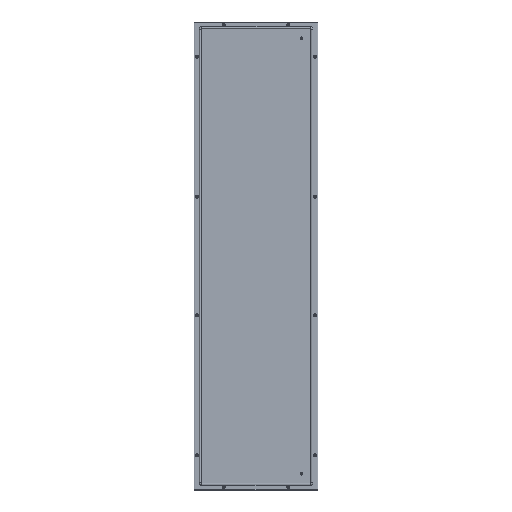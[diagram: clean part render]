
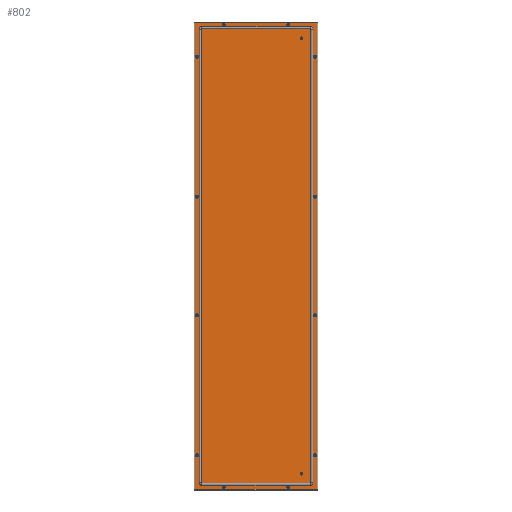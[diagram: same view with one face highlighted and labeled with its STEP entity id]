
A CAD part, left-side view. The second image highlights one B-rep face of the part: STEP entity #802.
In plain terms, the highlighted planar face has unit normal (-1, 0, 0).
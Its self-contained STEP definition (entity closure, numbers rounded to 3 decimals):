
#802=ADVANCED_FACE('',(#1181,#1183,#1185,#1187,#1189,#1191,#1193,#1195,#1197,#1199,
#1201,#1203,#1205,#1207,#1209),#1211,.F.);
#1181=FACE_BOUND('',#1182,.T.);
#1182=EDGE_LOOP('',(#3533,#3534,#3535,#3536));
#1183=FACE_BOUND('',#1184,.T.);
#1184=EDGE_LOOP('',(#3537));
#1185=FACE_BOUND('',#1186,.T.);
#1186=EDGE_LOOP('',(#3538));
#1187=FACE_BOUND('',#1188,.T.);
#1188=EDGE_LOOP('',(#3539));
#1189=FACE_BOUND('',#1190,.T.);
#1190=EDGE_LOOP('',(#3540));
#1191=FACE_BOUND('',#1192,.T.);
#1192=EDGE_LOOP('',(#3541));
#1193=FACE_BOUND('',#1194,.T.);
#1194=EDGE_LOOP('',(#3542));
#1195=FACE_BOUND('',#1196,.T.);
#1196=EDGE_LOOP('',(#3543));
#1197=FACE_BOUND('',#1198,.T.);
#1198=EDGE_LOOP('',(#3544));
#1199=FACE_BOUND('',#1200,.T.);
#1200=EDGE_LOOP('',(#3545));
#1201=FACE_BOUND('',#1202,.T.);
#1202=EDGE_LOOP('',(#3546));
#1203=FACE_BOUND('',#1204,.T.);
#1204=EDGE_LOOP('',(#3547));
#1205=FACE_BOUND('',#1206,.T.);
#1206=EDGE_LOOP('',(#3548));
#1207=FACE_BOUND('',#1208,.T.);
#1208=EDGE_LOOP('',(#3549));
#1209=FACE_BOUND('',#1210,.T.);
#1210=EDGE_LOOP('',(#3550));
#1211=PLANE('',#1212);
#1212=AXIS2_PLACEMENT_3D('',#1213,#1214,#1215);
#1213=CARTESIAN_POINT('',(0.,0.,0.));
#1214=DIRECTION('',(1.,0.,0.));
#1215=DIRECTION('',(0.,1.,0.));
#3533=ORIENTED_EDGE('',*,*,#4061,.T.);
#3534=ORIENTED_EDGE('',*,*,#4062,.T.);
#3535=ORIENTED_EDGE('',*,*,#4063,.T.);
#3536=ORIENTED_EDGE('',*,*,#4064,.T.);
#3537=ORIENTED_EDGE('',*,*,#4065,.T.);
#3538=ORIENTED_EDGE('',*,*,#4066,.T.);
#3539=ORIENTED_EDGE('',*,*,#4067,.F.);
#3540=ORIENTED_EDGE('',*,*,#4068,.F.);
#3541=ORIENTED_EDGE('',*,*,#4069,.F.);
#3542=ORIENTED_EDGE('',*,*,#4070,.F.);
#3543=ORIENTED_EDGE('',*,*,#4071,.F.);
#3544=ORIENTED_EDGE('',*,*,#4072,.F.);
#3545=ORIENTED_EDGE('',*,*,#4073,.F.);
#3546=ORIENTED_EDGE('',*,*,#4074,.F.);
#3547=ORIENTED_EDGE('',*,*,#4075,.F.);
#3548=ORIENTED_EDGE('',*,*,#4076,.F.);
#3549=ORIENTED_EDGE('',*,*,#4077,.F.);
#3550=ORIENTED_EDGE('',*,*,#4078,.F.);
#4061=EDGE_CURVE('',#4385,#4386,#4387,.T.);
#4062=EDGE_CURVE('',#4386,#4388,#4389,.T.);
#4063=EDGE_CURVE('',#4388,#4390,#4391,.T.);
#4064=EDGE_CURVE('',#4390,#4385,#4392,.T.);
#4065=EDGE_CURVE('',#4393,#4393,#4394,.F.);
#4066=EDGE_CURVE('',#4395,#4395,#4396,.F.);
#4067=EDGE_CURVE('',#4397,#4397,#4398,.T.);
#4068=EDGE_CURVE('',#4399,#4399,#4400,.F.);
#4069=EDGE_CURVE('',#4401,#4401,#4402,.F.);
#4070=EDGE_CURVE('',#4403,#4403,#4404,.F.);
#4071=EDGE_CURVE('',#4405,#4405,#4406,.F.);
#4072=EDGE_CURVE('',#4407,#4407,#4408,.F.);
#4073=EDGE_CURVE('',#4409,#4409,#4410,.F.);
#4074=EDGE_CURVE('',#4411,#4411,#4412,.F.);
#4075=EDGE_CURVE('',#4413,#4413,#4414,.F.);
#4076=EDGE_CURVE('',#4415,#4415,#4416,.F.);
#4077=EDGE_CURVE('',#4417,#4417,#4418,.F.);
#4078=EDGE_CURVE('',#4419,#4419,#4420,.F.);
#4385=VERTEX_POINT('',#5033);
#4386=VERTEX_POINT('',#5034);
#4387=LINE('',#5035,#5036);
#4388=VERTEX_POINT('',#5038);
#4389=LINE('',#5039,#5040);
#4390=VERTEX_POINT('',#5042);
#4391=LINE('',#5043,#5044);
#4392=LINE('',#5046,#5047);
#4393=VERTEX_POINT('',#5049);
#4394=CIRCLE('',#5050,5.75);
#4395=VERTEX_POINT('',#5054);
#4396=CIRCLE('',#5055,5.75);
#4397=VERTEX_POINT('',#5059);
#4398=CIRCLE('',#5060,6.954);
#4399=VERTEX_POINT('',#5064);
#4400=CIRCLE('',#5065,6.954);
#4401=VERTEX_POINT('',#5069);
#4402=CIRCLE('',#5070,6.954);
#4403=VERTEX_POINT('',#5074);
#4404=CIRCLE('',#5075,6.954);
#4405=VERTEX_POINT('',#5079);
#4406=CIRCLE('',#5080,6.954);
#4407=VERTEX_POINT('',#5084);
#4408=CIRCLE('',#5085,6.954);
#4409=VERTEX_POINT('',#5089);
#4410=CIRCLE('',#5090,6.954);
#4411=VERTEX_POINT('',#5094);
#4412=CIRCLE('',#5095,6.954);
#4413=VERTEX_POINT('',#5099);
#4414=CIRCLE('',#5100,6.954);
#4415=VERTEX_POINT('',#5104);
#4416=CIRCLE('',#5105,6.954);
#4417=VERTEX_POINT('',#5109);
#4418=CIRCLE('',#5110,6.954);
#4419=VERTEX_POINT('',#5114);
#4420=CIRCLE('',#5115,6.954);
#5033=CARTESIAN_POINT('',(0.,-283.7,-1082.7));
#5034=CARTESIAN_POINT('',(0.,-283.7,1082.7));
#5035=CARTESIAN_POINT('',(0.,-283.7,-1082.7));
#5036=VECTOR('',#5037,1.);
#5037=DIRECTION('',(0.,0.,1.));
#5038=CARTESIAN_POINT('',(0.,283.7,1082.7));
#5039=CARTESIAN_POINT('',(0.,-283.7,1082.7));
#5040=VECTOR('',#5041,1.);
#5041=DIRECTION('',(0.,1.,0.));
#5042=CARTESIAN_POINT('',(0.,283.7,-1082.7));
#5043=CARTESIAN_POINT('',(0.,283.7,1082.7));
#5044=VECTOR('',#5045,1.);
#5045=DIRECTION('',(0.,0.,-1.));
#5046=CARTESIAN_POINT('',(0.,283.7,-1082.7));
#5047=VECTOR('',#5048,1.);
#5048=DIRECTION('',(0.,-1.,0.));
#5049=CARTESIAN_POINT('',(0.,-217.25,1010.5));
#5050=AXIS2_PLACEMENT_3D('',#5051,#5052,#5053);
#5051=CARTESIAN_POINT('',(0.,-211.5,1010.5));
#5052=DIRECTION('',(-1.,0.,0.));
#5053=DIRECTION('',(0.,-1.,0.));
#5054=CARTESIAN_POINT('',(0.,-217.25,-1010.5));
#5055=AXIS2_PLACEMENT_3D('',#5056,#5057,#5058);
#5056=CARTESIAN_POINT('',(0.,-211.5,-1010.5));
#5057=DIRECTION('',(-1.,0.,0.));
#5058=DIRECTION('',(0.,-1.,0.));
#5059=CARTESIAN_POINT('',(0.,-266.546,925.));
#5060=AXIS2_PLACEMENT_3D('',#5061,#5062,#5063);
#5061=CARTESIAN_POINT('',(0.,-273.5,925.));
#5062=DIRECTION('',(-1.,0.,0.));
#5063=DIRECTION('',(0.,1.,0.));
#5064=CARTESIAN_POINT('',(0.,-266.546,-925.));
#5065=AXIS2_PLACEMENT_3D('',#5066,#5067,#5068);
#5066=CARTESIAN_POINT('',(0.,-273.5,-925.));
#5067=DIRECTION('',(1.,0.,0.));
#5068=DIRECTION('',(0.,1.,0.));
#5069=CARTESIAN_POINT('',(0.,280.454,-925.));
#5070=AXIS2_PLACEMENT_3D('',#5071,#5072,#5073);
#5071=CARTESIAN_POINT('',(0.,273.5,-925.));
#5072=DIRECTION('',(1.,0.,0.));
#5073=DIRECTION('',(0.,1.,0.));
#5074=CARTESIAN_POINT('',(0.,280.454,925.));
#5075=AXIS2_PLACEMENT_3D('',#5076,#5077,#5078);
#5076=CARTESIAN_POINT('',(0.,273.5,925.));
#5077=DIRECTION('',(1.,0.,0.));
#5078=DIRECTION('',(0.,1.,0.));
#5079=CARTESIAN_POINT('',(0.,-266.546,275.));
#5080=AXIS2_PLACEMENT_3D('',#5081,#5082,#5083);
#5081=CARTESIAN_POINT('',(0.,-273.5,275.));
#5082=DIRECTION('',(1.,0.,0.));
#5083=DIRECTION('',(0.,1.,0.));
#5084=CARTESIAN_POINT('',(0.,-266.546,-275.));
#5085=AXIS2_PLACEMENT_3D('',#5086,#5087,#5088);
#5086=CARTESIAN_POINT('',(0.,-273.5,-275.));
#5087=DIRECTION('',(1.,0.,0.));
#5088=DIRECTION('',(0.,1.,0.));
#5089=CARTESIAN_POINT('',(0.,280.454,275.));
#5090=AXIS2_PLACEMENT_3D('',#5091,#5092,#5093);
#5091=CARTESIAN_POINT('',(0.,273.5,275.));
#5092=DIRECTION('',(1.,0.,0.));
#5093=DIRECTION('',(0.,1.,0.));
#5094=CARTESIAN_POINT('',(0.,280.454,-275.));
#5095=AXIS2_PLACEMENT_3D('',#5096,#5097,#5098);
#5096=CARTESIAN_POINT('',(0.,273.5,-275.));
#5097=DIRECTION('',(1.,0.,0.));
#5098=DIRECTION('',(0.,1.,0.));
#5099=CARTESIAN_POINT('',(0.,-143.046,-1073.5));
#5100=AXIS2_PLACEMENT_3D('',#5101,#5102,#5103);
#5101=CARTESIAN_POINT('',(0.,-150.,-1073.5));
#5102=DIRECTION('',(1.,0.,0.));
#5103=DIRECTION('',(0.,1.,0.));
#5104=CARTESIAN_POINT('',(0.,-143.046,1073.5));
#5105=AXIS2_PLACEMENT_3D('',#5106,#5107,#5108);
#5106=CARTESIAN_POINT('',(0.,-150.,1073.5));
#5107=DIRECTION('',(1.,0.,0.));
#5108=DIRECTION('',(0.,1.,0.));
#5109=CARTESIAN_POINT('',(0.,156.954,-1073.5));
#5110=AXIS2_PLACEMENT_3D('',#5111,#5112,#5113);
#5111=CARTESIAN_POINT('',(0.,150.,-1073.5));
#5112=DIRECTION('',(1.,0.,0.));
#5113=DIRECTION('',(0.,1.,0.));
#5114=CARTESIAN_POINT('',(0.,156.954,1073.5));
#5115=AXIS2_PLACEMENT_3D('',#5116,#5117,#5118);
#5116=CARTESIAN_POINT('',(0.,150.,1073.5));
#5117=DIRECTION('',(1.,0.,0.));
#5118=DIRECTION('',(0.,1.,0.));
